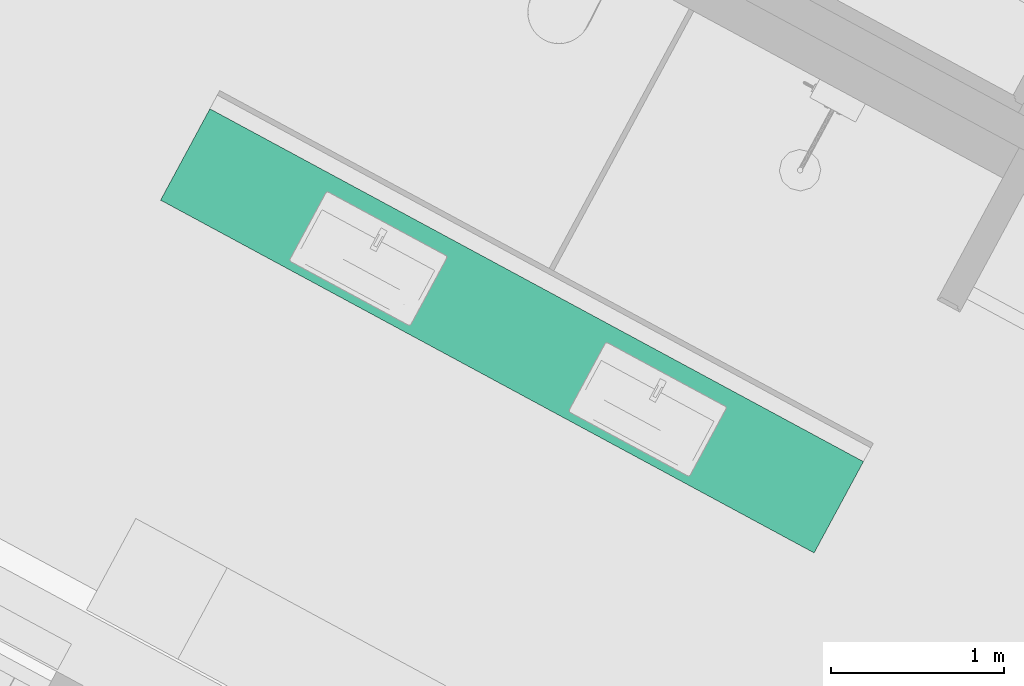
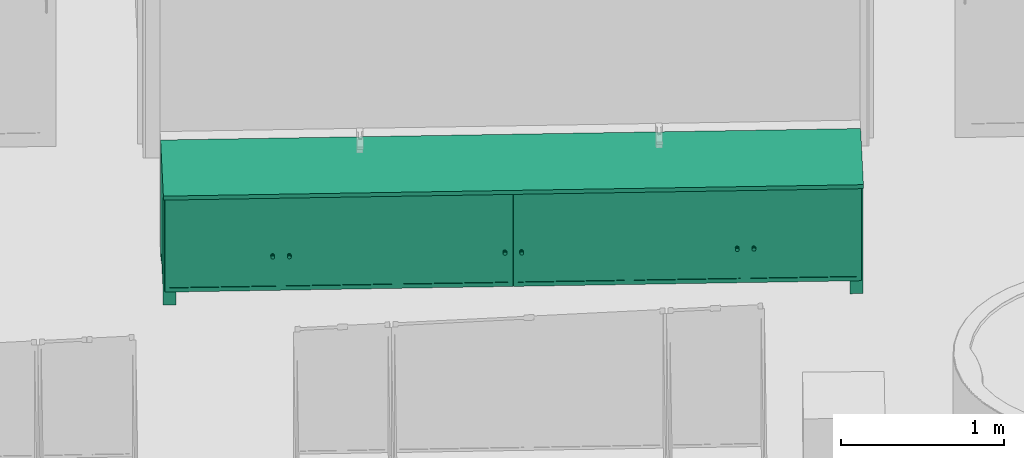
# One storey, part 20 of 48: 1 distribution element.
"""IFC2X3 building model written with IfcOpenShell, lengths in metres."""

from ifc_helpers import new_model, entity, si_unit, converted_unit, derived_unit, money_unit, direction, frame, origin_with_axes, place, context, subcontext, project, spatial, faceted_brep, type_object, element, save


model = new_model("IFC2X3")

# Units and contexts
model_context = context("Model", 3, precision=1e-05, world=origin_with_axes(), true_north=direction((0.0, 1.0)))
body_context = subcontext(model_context, "Body", "Model", "MODEL_VIEW")
ifc_project = project(units=[si_unit("LENGTHUNIT", "METRE"), si_unit("AREAUNIT", "SQUARE_METRE"), si_unit("VOLUMEUNIT", "CUBIC_METRE"), converted_unit("PLANEANGLEUNIT", "DEGREE", entity("IfcPlaneAngleMeasure", 0.0174532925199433), si_unit("PLANEANGLEUNIT", "RADIAN"), dimensions=[0, 0, 0, 0, 0, 0, 0]), money_unit("EUR"), converted_unit("TIMEUNIT", "Year", entity("IfcTimeMeasure", 31556926.0), si_unit("TIMEUNIT", "SECOND"), dimensions=[0, 0, 1, 0, 0, 0, 0]), si_unit("MASSUNIT", "GRAM", prefix="KILO"), si_unit("THERMODYNAMICTEMPERATUREUNIT", "DEGREE_CELSIUS"), si_unit("LUMINOUSINTENSITYUNIT", "LUMEN"), si_unit("ENERGYUNIT", "JOULE", prefix="MEGA"), derived_unit("THERMALCONDUCTANCEUNIT", [(si_unit("POWERUNIT", "WATT"), 1), (si_unit("LENGTHUNIT", "METRE"), -1), (si_unit("THERMODYNAMICTEMPERATUREUNIT", "KELVIN"), -1)]), derived_unit("SPECIFICHEATCAPACITYUNIT", [(si_unit("ENERGYUNIT", "JOULE"), 1), (si_unit("MASSUNIT", "GRAM", prefix="KILO"), -1), (si_unit("THERMODYNAMICTEMPERATUREUNIT", "KELVIN"), -1)]), derived_unit("MASSDENSITYUNIT", [(si_unit("MASSUNIT", "GRAM", prefix="KILO"), 1), (si_unit("VOLUMEUNIT", "CUBIC_METRE"), -1)])], contexts=[model_context])

# Site, building, storey
site_placement = place(None, frame((-3.949935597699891, 1.740105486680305, 0.0), z_axis=(0.0, 0.0, 1.0), x_axis=(0.8799804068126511, -0.475009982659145, 0.0)))
site = spatial("IfcSite", under=ifc_project, at=site_placement, Name="Gelände", CompositionType="ELEMENT")
building_placement = place(site_placement, origin_with_axes())
building = spatial("IfcBuilding", under=site, at=building_placement, Name="Gebäude", CompositionType="ELEMENT")
storey_placement = place(building_placement, frame((0.0, 0.0, 4.55), z_axis=(0.0, 0.0, 1.0), x_axis=(1.0, 0.0, 0.0)))
storey = spatial("IfcBuildingStorey", under=building, at=storey_placement, Name="Staffelgeschoss", CompositionType="ELEMENT", Elevation=4.55)

# Distribution element
distribution_element_type = type_object("IfcDistributionElementType", Name="Kleiderschrank 22")
distribution_element_placement = place(storey_placement, frame((23.66207125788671, 3.927100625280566, 0.0), z_axis=(0.0, 0.0, 1.0), x_axis=(1.0, 0.0, 0.0)))
element("IfcDistributionElement", 1, at=distribution_element_placement, inside=storey, type_object=distribution_element_type, Name="Objekt-0063", context=body_context, shape_type="Brep", body=[
    faceted_brep([(-0.02000000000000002, 0.6000002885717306, 0.12), (-0.02000000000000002, 0.6000002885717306, 0.7999999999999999), (-0.02000000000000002, 0.5800002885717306, 0.7999999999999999), (-0.02000000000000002, 0.5800002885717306, 0.12), (-4.272651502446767, 0.6000002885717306, 0.12), (-4.272651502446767, 0.6000002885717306, 0.7999999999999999), (-4.272651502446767, 0.5800002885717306, 0.7999999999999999), (-4.272651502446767, 0.5800002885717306, 0.12)], [[[0, 1, 2, 3]], [[4, 5, 1, 0]], [[1, 5, 6, 2]], [[3, 2, 6, 7]], [[0, 3, 7, 4]], [[7, 6, 5, 4]]]),
    faceted_brep([(-4.292651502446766, 0.05000000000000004, 0.1), (-4.292651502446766, 0.6000002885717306, 0.1), (-4.272651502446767, 0.6000002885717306, 0.1), (-4.272651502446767, 0.05000000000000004, 0.1), (-4.292651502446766, 0.05000000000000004, 0.82), (-4.292651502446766, 0.6000002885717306, 0.82), (-4.272651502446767, 0.6000002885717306, 0.82), (-4.272651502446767, 0.05000000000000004, 0.82)], [[[0, 1, 2, 3]], [[0, 4, 5, 1]], [[1, 5, 6, 2]], [[2, 6, 7, 3]], [[3, 7, 4, 0]], [[7, 6, 5, 4]]]),
    faceted_brep([(-0.02, 0.05000000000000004, 0.1), (-0.02, 0.6000002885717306, 0.1), (0.0, 0.6000002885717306, 0.1), (0.0, 0.05000000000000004, 0.1), (-0.02, 0.05000000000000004, 0.82), (-0.02, 0.6000002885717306, 0.82), (0.0, 0.6000002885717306, 0.82), (0.0, 0.05000000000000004, 0.82)], [[[0, 1, 2, 3]], [[0, 4, 5, 1]], [[1, 5, 6, 2]], [[2, 6, 7, 3]], [[3, 7, 4, 0]], [[7, 6, 5, 4]]]),
    faceted_brep([(-4.272651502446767, 0.05000000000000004, 0.1), (-4.272651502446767, 0.6000002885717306, 0.1), (-0.02000000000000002, 0.6000002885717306, 0.1), (-0.02000000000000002, 0.05000000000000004, 0.1), (-4.272651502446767, 0.05000000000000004, 0.12), (-4.272651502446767, 0.6000002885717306, 0.12), (-0.02000000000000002, 0.6000002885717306, 0.12), (-0.02000000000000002, 0.05000000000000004, 0.12)], [[[0, 1, 2, 3]], [[0, 4, 5, 1]], [[1, 5, 6, 2]], [[2, 6, 7, 3]], [[3, 7, 4, 0]], [[7, 6, 5, 4]]]),
    faceted_brep([(-4.272651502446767, 0.05000000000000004, 0.7999999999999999), (-4.272651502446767, 0.6000002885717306, 0.7999999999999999), (-0.02000000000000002, 0.6000002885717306, 0.7999999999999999), (-0.02000000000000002, 0.05000000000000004, 0.7999999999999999), (-4.272651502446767, 0.05000000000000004, 0.82), (-4.272651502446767, 0.6000002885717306, 0.82), (-0.02000000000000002, 0.6000002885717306, 0.82), (-0.02000000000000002, 0.05000000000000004, 0.82)], [[[0, 1, 2, 3]], [[0, 4, 5, 1]], [[1, 5, 6, 2]], [[2, 6, 7, 3]], [[3, 7, 4, 0]], [[7, 6, 5, 4]]]),
    faceted_brep([(-4.292651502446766, 0.6000002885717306, 0.82), (-4.292651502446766, 0.0, 0.82), (-4.292651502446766, 0.0, 0.85), (-4.292651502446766, 0.6000002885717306, 0.85), (0.0, 0.6000002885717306, 0.82), (0.0, 0.0, 0.82), (0.0, 0.0, 0.85), (0.0, 0.6000002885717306, 0.85)], [[[0, 1, 2, 3]], [[0, 4, 5, 1]], [[1, 5, 6, 2]], [[3, 2, 6, 7]], [[4, 0, 3, 7]], [[5, 4, 7, 6]]]),
    faceted_brep([(-0.08000000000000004, 0.5200002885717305, 0.0), (-0.08000000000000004, 0.5200002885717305, 0.1), (-0.08000000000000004, 0.6000002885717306, 0.1), (-0.08000000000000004, 0.6000002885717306, 0.0), (0.0, 0.5200002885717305, 0.0), (0.0, 0.5200002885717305, 0.1), (0.0, 0.6000002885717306, 0.1), (0.0, 0.6000002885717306, 0.0)], [[[0, 1, 2, 3]], [[4, 5, 1, 0]], [[1, 5, 6, 2]], [[3, 2, 6, 7]], [[0, 3, 7, 4]], [[7, 6, 5, 4]]]),
    faceted_brep([(-4.292651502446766, 0.5200002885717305, 0.0), (-4.292651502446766, 0.5200002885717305, 0.1), (-4.292651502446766, 0.6000002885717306, 0.1), (-4.292651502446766, 0.6000002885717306, 0.0), (-4.212651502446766, 0.5200002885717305, 0.0), (-4.212651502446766, 0.5200002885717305, 0.1), (-4.212651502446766, 0.6000002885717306, 0.1), (-4.212651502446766, 0.6000002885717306, 0.0)], [[[0, 1, 2, 3]], [[4, 5, 1, 0]], [[1, 5, 6, 2]], [[3, 2, 6, 7]], [[0, 3, 7, 4]], [[7, 6, 5, 4]]]),
    faceted_brep([(-0.08000000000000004, 0.05000000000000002, 0.0), (-0.08000000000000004, 0.05000000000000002, 0.1), (-0.08000000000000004, 0.13, 0.1), (-0.08000000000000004, 0.13, 0.0), (0.0, 0.05000000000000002, 0.0), (0.0, 0.05000000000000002, 0.1), (0.0, 0.13, 0.1), (0.0, 0.13, 0.0)], [[[0, 1, 2, 3]], [[4, 5, 1, 0]], [[1, 5, 6, 2]], [[3, 2, 6, 7]], [[0, 3, 7, 4]], [[7, 6, 5, 4]]]),
    faceted_brep([(-4.292651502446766, 0.05000000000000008, 0.0), (-4.292651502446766, 0.05000000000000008, 0.1), (-4.292651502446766, 0.1300000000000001, 0.1), (-4.292651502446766, 0.1300000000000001, 0.0), (-4.212651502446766, 0.05000000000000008, 0.0), (-4.212651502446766, 0.05000000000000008, 0.1), (-4.212651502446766, 0.1300000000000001, 0.1), (-4.212651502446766, 0.1300000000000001, 0.0)], [[[0, 1, 2, 3]], [[4, 5, 1, 0]], [[1, 5, 6, 2]], [[3, 2, 6, 7]], [[0, 3, 7, 4]], [[7, 6, 5, 4]]]),
    faceted_brep([(-0.7216085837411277, 0.05, 0.1105), (-0.7216085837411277, 0.03, 0.1105), (-0.7216085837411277, 0.03000000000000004, 0.8095), (-0.7216085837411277, 0.05000000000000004, 0.8095), (-0.6916085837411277, 0.05, 0.1405), (-0.6916085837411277, 0.03000000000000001, 0.1405), (-0.6916085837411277, 0.03000000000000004, 0.7795), (-0.6916085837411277, 0.05000000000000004, 0.7795)], [[[0, 1, 2, 3]], [[4, 5, 1, 0]], [[1, 5, 6, 2]], [[3, 2, 6, 7]], [[0, 3, 7, 4]], [[7, 6, 5, 4]]]),
    faceted_brep([(-0.04050000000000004, 0.05, 0.1405), (-0.04050000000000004, 0.03000000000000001, 0.1405), (-0.04050000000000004, 0.03000000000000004, 0.7795), (-0.04050000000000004, 0.05000000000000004, 0.7795), (-0.01050000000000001, 0.05, 0.1105), (-0.01050000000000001, 0.03, 0.1105), (-0.01050000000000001, 0.03000000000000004, 0.8095), (-0.01050000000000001, 0.05000000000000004, 0.8095)], [[[0, 1, 2, 3]], [[4, 5, 1, 0]], [[1, 5, 6, 2]], [[3, 2, 6, 7]], [[0, 3, 7, 4]], [[7, 6, 5, 4]]]),
    faceted_brep([(-0.01050000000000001, 0.05, 0.1105), (-0.01050000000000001, 0.03, 0.1105), (-0.7216085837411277, 0.03, 0.1105), (-0.7216085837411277, 0.05, 0.1105), (-0.04050000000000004, 0.05, 0.1405), (-0.04050000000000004, 0.03000000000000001, 0.1405), (-0.6916085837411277, 0.03000000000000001, 0.1405), (-0.6916085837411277, 0.05, 0.1405)], [[[0, 1, 2, 3]], [[4, 5, 1, 0]], [[1, 5, 6, 2]], [[3, 2, 6, 7]], [[0, 3, 7, 4]], [[7, 6, 5, 4]]]),
    faceted_brep([(-0.04050000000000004, 0.05000000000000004, 0.7795), (-0.04050000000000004, 0.03000000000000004, 0.7795), (-0.6916085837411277, 0.03000000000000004, 0.7795), (-0.6916085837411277, 0.05000000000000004, 0.7795), (-0.01050000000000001, 0.05000000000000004, 0.8095), (-0.01050000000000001, 0.03000000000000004, 0.8095), (-0.7216085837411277, 0.03000000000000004, 0.8095), (-0.7216085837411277, 0.05000000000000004, 0.8095)], [[[0, 1, 2, 3]], [[4, 5, 1, 0]], [[1, 5, 6, 2]], [[3, 2, 6, 7]], [[0, 3, 7, 4]], [[7, 6, 5, 4]]]),
    faceted_brep([(-0.6916085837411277, 0.04500000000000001, 0.1405), (-0.6916085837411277, 0.035, 0.1405), (-0.6916085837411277, 0.03500000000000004, 0.7795000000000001), (-0.6916085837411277, 0.04500000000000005, 0.7795000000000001), (-0.04050000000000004, 0.04500000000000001, 0.1405), (-0.04050000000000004, 0.035, 0.1405), (-0.04050000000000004, 0.03500000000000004, 0.7795000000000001), (-0.04050000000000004, 0.04500000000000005, 0.7795000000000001)], [[[0, 1, 2, 3]], [[4, 5, 1, 0]], [[1, 5, 6, 2]], [[3, 2, 6, 7]], [[0, 3, 7, 4]], [[7, 6, 5, 4]]]),
    faceted_brep([(-0.681500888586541, 0.035, 0.364), (-0.6831085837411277, 0.035, 0.37), (-0.681500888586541, 0.035, 0.376), (-0.6771085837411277, 0.035, 0.3803923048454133), (-0.6711085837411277, 0.035, 0.382), (-0.6651085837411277, 0.035, 0.3803923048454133), (-0.6607162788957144, 0.035, 0.376), (-0.6591085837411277, 0.035, 0.37), (-0.6607162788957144, 0.035, 0.364), (-0.6651085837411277, 0.035, 0.3596076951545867), (-0.6711085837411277, 0.035, 0.358), (-0.6771085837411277, 0.035, 0.3596076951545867), (-0.681500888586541, 0.01, 0.364), (-0.6831085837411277, 0.01, 0.37), (-0.681500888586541, 0.01, 0.376), (-0.6771085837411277, 0.01, 0.3803923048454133), (-0.6711085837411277, 0.01, 0.382), (-0.6651085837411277, 0.01, 0.3803923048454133), (-0.6607162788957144, 0.01, 0.376), (-0.6591085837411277, 0.01, 0.37), (-0.6607162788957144, 0.01, 0.364), (-0.6651085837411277, 0.01, 0.3596076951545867), (-0.6711085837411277, 0.01, 0.358), (-0.6771085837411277, 0.01, 0.3596076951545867)], [[[0, 1, 2, 3, 4, 5, 6, 7, 8, 9, 10, 11]], [[0, 12, 13, 1]], [[1, 13, 14, 2]], [[2, 14, 15, 3]], [[3, 15, 16, 4]], [[4, 16, 17, 5]], [[5, 17, 18, 6]], [[6, 18, 19, 7]], [[7, 19, 20, 8]], [[8, 20, 21, 9]], [[9, 21, 22, 10]], [[10, 22, 23, 11]], [[11, 23, 12, 0]], [[12, 23, 22, 21, 20, 19, 18, 17, 16, 15, 14, 13]]]),
    faceted_brep([(-1.434717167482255, 0.05, 0.1105), (-1.434717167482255, 0.03, 0.1105), (-1.434717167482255, 0.03000000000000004, 0.8095), (-1.434717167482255, 0.05000000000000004, 0.8095), (-1.404717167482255, 0.05, 0.1405), (-1.404717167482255, 0.03000000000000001, 0.1405), (-1.404717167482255, 0.03000000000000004, 0.7795), (-1.404717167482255, 0.05000000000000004, 0.7795)], [[[0, 1, 2, 3]], [[4, 5, 1, 0]], [[1, 5, 6, 2]], [[3, 2, 6, 7]], [[0, 3, 7, 4]], [[7, 6, 5, 4]]]),
    faceted_brep([(-0.7536085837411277, 0.05, 0.1405), (-0.7536085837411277, 0.03000000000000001, 0.1405), (-0.7536085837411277, 0.03000000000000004, 0.7795), (-0.7536085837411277, 0.05000000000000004, 0.7795), (-0.7236085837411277, 0.05, 0.1105), (-0.7236085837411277, 0.03, 0.1105), (-0.7236085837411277, 0.03000000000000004, 0.8095), (-0.7236085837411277, 0.05000000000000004, 0.8095)], [[[0, 1, 2, 3]], [[4, 5, 1, 0]], [[1, 5, 6, 2]], [[3, 2, 6, 7]], [[0, 3, 7, 4]], [[7, 6, 5, 4]]]),
    faceted_brep([(-0.7236085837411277, 0.05, 0.1105), (-0.7236085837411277, 0.03, 0.1105), (-1.434717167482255, 0.03, 0.1105), (-1.434717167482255, 0.05, 0.1105), (-0.7536085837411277, 0.05, 0.1405), (-0.7536085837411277, 0.03000000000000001, 0.1405), (-1.404717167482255, 0.03000000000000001, 0.1405), (-1.404717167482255, 0.05, 0.1405)], [[[0, 1, 2, 3]], [[4, 5, 1, 0]], [[1, 5, 6, 2]], [[3, 2, 6, 7]], [[0, 3, 7, 4]], [[7, 6, 5, 4]]]),
    faceted_brep([(-0.7536085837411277, 0.05000000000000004, 0.7795), (-0.7536085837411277, 0.03000000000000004, 0.7795), (-1.404717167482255, 0.03000000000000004, 0.7795), (-1.404717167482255, 0.05000000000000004, 0.7795), (-0.7236085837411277, 0.05000000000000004, 0.8095), (-0.7236085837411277, 0.03000000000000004, 0.8095), (-1.434717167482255, 0.03000000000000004, 0.8095), (-1.434717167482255, 0.05000000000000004, 0.8095)], [[[0, 1, 2, 3]], [[4, 5, 1, 0]], [[1, 5, 6, 2]], [[3, 2, 6, 7]], [[0, 3, 7, 4]], [[7, 6, 5, 4]]]),
    faceted_brep([(-1.404717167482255, 0.04500000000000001, 0.1405), (-1.404717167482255, 0.04000000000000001, 0.1405), (-1.404717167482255, 0.04000000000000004, 0.7795000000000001), (-1.404717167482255, 0.04500000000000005, 0.7795000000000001), (-0.7536085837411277, 0.04500000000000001, 0.1405), (-0.7536085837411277, 0.04000000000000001, 0.1405), (-0.7536085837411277, 0.04000000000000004, 0.7795000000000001), (-0.7536085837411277, 0.04500000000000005, 0.7795000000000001)], [[[0, 1, 2, 3]], [[4, 5, 1, 0]], [[1, 5, 6, 2]], [[3, 2, 6, 7]], [[0, 3, 7, 4]], [[7, 6, 5, 4]]]),
    faceted_brep([(-1.404717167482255, 0.04000000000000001, 0.1405), (-1.404717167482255, 0.03500000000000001, 0.1405), (-1.404717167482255, 0.03500000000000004, 0.7795000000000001), (-1.404717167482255, 0.04000000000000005, 0.7795000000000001), (-0.7536085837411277, 0.04000000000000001, 0.1405), (-0.7536085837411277, 0.03500000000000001, 0.1405), (-0.7536085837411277, 0.03500000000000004, 0.7795000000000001), (-0.7536085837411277, 0.04000000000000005, 0.7795000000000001)], [[[0, 1, 2, 3]], [[4, 5, 1, 0]], [[1, 5, 6, 2]], [[3, 2, 6, 7]], [[0, 3, 7, 4]], [[7, 6, 5, 4]]]),
    faceted_brep([(-0.7627162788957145, 0.035, 0.364), (-0.7671085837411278, 0.035, 0.3596076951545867), (-0.7731085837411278, 0.035, 0.358), (-0.7791085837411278, 0.035, 0.3596076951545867), (-0.7835008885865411, 0.035, 0.364), (-0.7851085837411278, 0.035, 0.37), (-0.7835008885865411, 0.035, 0.376), (-0.7791085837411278, 0.035, 0.3803923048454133), (-0.7731085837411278, 0.035, 0.382), (-0.7671085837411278, 0.035, 0.3803923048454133), (-0.7627162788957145, 0.035, 0.376), (-0.7611085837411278, 0.035, 0.37), (-0.7627162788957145, 0.01, 0.364), (-0.7671085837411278, 0.01, 0.3596076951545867), (-0.7731085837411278, 0.01, 0.358), (-0.7791085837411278, 0.01, 0.3596076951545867), (-0.7835008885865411, 0.01, 0.364), (-0.7851085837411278, 0.01, 0.37), (-0.7835008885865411, 0.01, 0.376), (-0.7791085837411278, 0.01, 0.3803923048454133), (-0.7731085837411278, 0.01, 0.382), (-0.7671085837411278, 0.01, 0.3803923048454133), (-0.7627162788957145, 0.01, 0.376), (-0.7611085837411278, 0.01, 0.37)], [[[0, 1, 2, 3, 4, 5, 6, 7, 8, 9, 10, 11]], [[1, 0, 12, 13]], [[2, 1, 13, 14]], [[3, 2, 14, 15]], [[4, 3, 15, 16]], [[5, 4, 16, 17]], [[6, 5, 17, 18]], [[7, 6, 18, 19]], [[8, 7, 19, 20]], [[9, 8, 20, 21]], [[10, 9, 21, 22]], [[11, 10, 22, 23]], [[0, 11, 23, 12]], [[12, 23, 22, 21, 20, 19, 18, 17, 16, 15, 14, 13]]]),
    faceted_brep([(-2.145825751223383, 0.05, 0.1105), (-2.145825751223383, 0.03, 0.1105), (-2.145825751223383, 0.03000000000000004, 0.8095), (-2.145825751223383, 0.05000000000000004, 0.8095), (-2.115825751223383, 0.05, 0.1405), (-2.115825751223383, 0.03000000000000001, 0.1405), (-2.115825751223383, 0.03000000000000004, 0.7795), (-2.115825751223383, 0.05000000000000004, 0.7795)], [[[0, 1, 2, 3]], [[4, 5, 1, 0]], [[1, 5, 6, 2]], [[3, 2, 6, 7]], [[0, 3, 7, 4]], [[7, 6, 5, 4]]]),
    faceted_brep([(-1.464717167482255, 0.05, 0.1405), (-1.464717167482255, 0.03000000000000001, 0.1405), (-1.464717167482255, 0.03000000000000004, 0.7795), (-1.464717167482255, 0.05000000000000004, 0.7795), (-1.434717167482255, 0.05, 0.1105), (-1.434717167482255, 0.03, 0.1105), (-1.434717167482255, 0.03000000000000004, 0.8095), (-1.434717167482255, 0.05000000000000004, 0.8095)], [[[0, 1, 2, 3]], [[4, 5, 1, 0]], [[1, 5, 6, 2]], [[3, 2, 6, 7]], [[0, 3, 7, 4]], [[7, 6, 5, 4]]]),
    faceted_brep([(-1.434717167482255, 0.05, 0.1105), (-1.434717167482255, 0.03, 0.1105), (-2.145825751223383, 0.03, 0.1105), (-2.145825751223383, 0.05, 0.1105), (-1.464717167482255, 0.05, 0.1405), (-1.464717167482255, 0.03000000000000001, 0.1405), (-2.115825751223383, 0.03000000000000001, 0.1405), (-2.115825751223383, 0.05, 0.1405)], [[[0, 1, 2, 3]], [[4, 5, 1, 0]], [[1, 5, 6, 2]], [[3, 2, 6, 7]], [[0, 3, 7, 4]], [[7, 6, 5, 4]]]),
    faceted_brep([(-1.464717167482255, 0.05000000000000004, 0.7795), (-1.464717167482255, 0.03000000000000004, 0.7795), (-2.115825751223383, 0.03000000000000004, 0.7795), (-2.115825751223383, 0.05000000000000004, 0.7795), (-1.434717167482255, 0.05000000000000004, 0.8095), (-1.434717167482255, 0.03000000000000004, 0.8095), (-2.145825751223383, 0.03000000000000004, 0.8095), (-2.145825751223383, 0.05000000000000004, 0.8095)], [[[0, 1, 2, 3]], [[4, 5, 1, 0]], [[1, 5, 6, 2]], [[3, 2, 6, 7]], [[0, 3, 7, 4]], [[7, 6, 5, 4]]]),
    faceted_brep([(-2.115825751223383, 0.04500000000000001, 0.1405), (-2.115825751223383, 0.035, 0.1405), (-2.115825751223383, 0.03500000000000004, 0.7795000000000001), (-2.115825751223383, 0.04500000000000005, 0.7795000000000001), (-1.464717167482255, 0.04500000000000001, 0.1405), (-1.464717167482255, 0.035, 0.1405), (-1.464717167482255, 0.03500000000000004, 0.7795000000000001), (-1.464717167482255, 0.04500000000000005, 0.7795000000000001)], [[[0, 1, 2, 3]], [[4, 5, 1, 0]], [[1, 5, 6, 2]], [[3, 2, 6, 7]], [[0, 3, 7, 4]], [[7, 6, 5, 4]]]),
    faceted_brep([(-2.105718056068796, 0.035, 0.364), (-2.107325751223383, 0.035, 0.37), (-2.105718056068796, 0.035, 0.376), (-2.101325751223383, 0.035, 0.3803923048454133), (-2.095325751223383, 0.035, 0.382), (-2.089325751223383, 0.035, 0.3803923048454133), (-2.08493344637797, 0.035, 0.376), (-2.083325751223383, 0.035, 0.37), (-2.08493344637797, 0.035, 0.364), (-2.089325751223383, 0.035, 0.3596076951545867), (-2.095325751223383, 0.035, 0.358), (-2.101325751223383, 0.035, 0.3596076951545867), (-2.105718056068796, 0.01, 0.364), (-2.107325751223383, 0.01, 0.37), (-2.105718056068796, 0.01, 0.376), (-2.101325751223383, 0.01, 0.3803923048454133), (-2.095325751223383, 0.01, 0.382), (-2.089325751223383, 0.01, 0.3803923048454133), (-2.08493344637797, 0.01, 0.376), (-2.083325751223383, 0.01, 0.37), (-2.08493344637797, 0.01, 0.364), (-2.089325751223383, 0.01, 0.3596076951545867), (-2.095325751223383, 0.01, 0.358), (-2.101325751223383, 0.01, 0.3596076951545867)], [[[0, 1, 2, 3, 4, 5, 6, 7, 8, 9, 10, 11]], [[0, 12, 13, 1]], [[1, 13, 14, 2]], [[2, 14, 15, 3]], [[3, 15, 16, 4]], [[4, 16, 17, 5]], [[5, 17, 18, 6]], [[6, 18, 19, 7]], [[7, 19, 20, 8]], [[8, 20, 21, 9]], [[9, 21, 22, 10]], [[10, 22, 23, 11]], [[11, 23, 12, 0]], [[12, 23, 22, 21, 20, 19, 18, 17, 16, 15, 14, 13]]]),
    faceted_brep([(-2.858934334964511, 0.05, 0.1105), (-2.858934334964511, 0.03, 0.1105), (-2.858934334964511, 0.03000000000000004, 0.8095), (-2.858934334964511, 0.05000000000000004, 0.8095), (-2.828934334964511, 0.05, 0.1405), (-2.828934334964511, 0.03000000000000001, 0.1405), (-2.828934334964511, 0.03000000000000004, 0.7795), (-2.828934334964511, 0.05000000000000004, 0.7795)], [[[0, 1, 2, 3]], [[4, 5, 1, 0]], [[1, 5, 6, 2]], [[3, 2, 6, 7]], [[0, 3, 7, 4]], [[7, 6, 5, 4]]]),
    faceted_brep([(-2.177825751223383, 0.05, 0.1405), (-2.177825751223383, 0.03000000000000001, 0.1405), (-2.177825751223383, 0.03000000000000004, 0.7795), (-2.177825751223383, 0.05000000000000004, 0.7795), (-2.147825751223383, 0.05, 0.1105), (-2.147825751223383, 0.03, 0.1105), (-2.147825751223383, 0.03000000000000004, 0.8095), (-2.147825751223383, 0.05000000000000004, 0.8095)], [[[0, 1, 2, 3]], [[4, 5, 1, 0]], [[1, 5, 6, 2]], [[3, 2, 6, 7]], [[0, 3, 7, 4]], [[7, 6, 5, 4]]]),
    faceted_brep([(-2.147825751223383, 0.05, 0.1105), (-2.147825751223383, 0.03, 0.1105), (-2.85893433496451, 0.03, 0.1105), (-2.85893433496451, 0.05, 0.1105), (-2.177825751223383, 0.05, 0.1405), (-2.177825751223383, 0.03000000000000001, 0.1405), (-2.828934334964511, 0.03000000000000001, 0.1405), (-2.828934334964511, 0.05, 0.1405)], [[[0, 1, 2, 3]], [[4, 5, 1, 0]], [[1, 5, 6, 2]], [[3, 2, 6, 7]], [[0, 3, 7, 4]], [[7, 6, 5, 4]]]),
    faceted_brep([(-2.177825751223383, 0.05000000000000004, 0.7795), (-2.177825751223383, 0.03000000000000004, 0.7795), (-2.828934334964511, 0.03000000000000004, 0.7795), (-2.828934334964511, 0.05000000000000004, 0.7795), (-2.147825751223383, 0.05000000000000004, 0.8095), (-2.147825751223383, 0.03000000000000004, 0.8095), (-2.85893433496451, 0.03000000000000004, 0.8095), (-2.85893433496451, 0.05000000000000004, 0.8095)], [[[0, 1, 2, 3]], [[4, 5, 1, 0]], [[1, 5, 6, 2]], [[3, 2, 6, 7]], [[0, 3, 7, 4]], [[7, 6, 5, 4]]]),
    faceted_brep([(-2.82893433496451, 0.04500000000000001, 0.1405), (-2.82893433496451, 0.04000000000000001, 0.1405), (-2.82893433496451, 0.04000000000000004, 0.7795000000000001), (-2.82893433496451, 0.04500000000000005, 0.7795000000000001), (-2.177825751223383, 0.04500000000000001, 0.1405), (-2.177825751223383, 0.04000000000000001, 0.1405), (-2.177825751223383, 0.04000000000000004, 0.7795000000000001), (-2.177825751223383, 0.04500000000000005, 0.7795000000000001)], [[[0, 1, 2, 3]], [[4, 5, 1, 0]], [[1, 5, 6, 2]], [[3, 2, 6, 7]], [[0, 3, 7, 4]], [[7, 6, 5, 4]]]),
    faceted_brep([(-2.82893433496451, 0.04000000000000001, 0.1405), (-2.82893433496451, 0.03500000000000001, 0.1405), (-2.82893433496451, 0.03500000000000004, 0.7795000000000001), (-2.82893433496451, 0.04000000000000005, 0.7795000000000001), (-2.177825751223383, 0.04000000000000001, 0.1405), (-2.177825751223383, 0.03500000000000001, 0.1405), (-2.177825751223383, 0.03500000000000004, 0.7795000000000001), (-2.177825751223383, 0.04000000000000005, 0.7795000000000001)], [[[0, 1, 2, 3]], [[4, 5, 1, 0]], [[1, 5, 6, 2]], [[3, 2, 6, 7]], [[0, 3, 7, 4]], [[7, 6, 5, 4]]]),
    faceted_brep([(-2.18693344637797, 0.035, 0.364), (-2.191325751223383, 0.035, 0.3596076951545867), (-2.197325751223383, 0.035, 0.358), (-2.203325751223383, 0.035, 0.3596076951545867), (-2.207718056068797, 0.035, 0.364), (-2.209325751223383, 0.035, 0.37), (-2.207718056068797, 0.035, 0.376), (-2.203325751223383, 0.035, 0.3803923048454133), (-2.197325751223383, 0.035, 0.382), (-2.191325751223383, 0.035, 0.3803923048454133), (-2.18693344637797, 0.035, 0.376), (-2.185325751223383, 0.035, 0.37), (-2.18693344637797, 0.01, 0.364), (-2.191325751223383, 0.01, 0.3596076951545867), (-2.197325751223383, 0.01, 0.358), (-2.203325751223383, 0.01, 0.3596076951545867), (-2.207718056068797, 0.01, 0.364), (-2.209325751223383, 0.01, 0.37), (-2.207718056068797, 0.01, 0.376), (-2.203325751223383, 0.01, 0.3803923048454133), (-2.197325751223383, 0.01, 0.382), (-2.191325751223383, 0.01, 0.3803923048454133), (-2.18693344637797, 0.01, 0.376), (-2.185325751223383, 0.01, 0.37)], [[[0, 1, 2, 3, 4, 5, 6, 7, 8, 9, 10, 11]], [[1, 0, 12, 13]], [[2, 1, 13, 14]], [[3, 2, 14, 15]], [[4, 3, 15, 16]], [[5, 4, 16, 17]], [[6, 5, 17, 18]], [[7, 6, 18, 19]], [[8, 7, 19, 20]], [[9, 8, 20, 21]], [[10, 9, 21, 22]], [[11, 10, 22, 23]], [[0, 11, 23, 12]], [[12, 23, 22, 21, 20, 19, 18, 17, 16, 15, 14, 13]]]),
    faceted_brep([(-3.570042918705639, 0.05, 0.1105), (-3.570042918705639, 0.03, 0.1105), (-3.570042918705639, 0.03000000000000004, 0.8095), (-3.570042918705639, 0.05000000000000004, 0.8095), (-3.540042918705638, 0.05, 0.1405), (-3.540042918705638, 0.03000000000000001, 0.1405), (-3.540042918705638, 0.03000000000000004, 0.7795), (-3.540042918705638, 0.05000000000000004, 0.7795)], [[[0, 1, 2, 3]], [[4, 5, 1, 0]], [[1, 5, 6, 2]], [[3, 2, 6, 7]], [[0, 3, 7, 4]], [[7, 6, 5, 4]]]),
    faceted_brep([(-2.88893433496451, 0.05, 0.1405), (-2.88893433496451, 0.03000000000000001, 0.1405), (-2.88893433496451, 0.03000000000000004, 0.7795), (-2.88893433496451, 0.05000000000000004, 0.7795), (-2.85893433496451, 0.05, 0.1105), (-2.85893433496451, 0.03, 0.1105), (-2.85893433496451, 0.03000000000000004, 0.8095), (-2.85893433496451, 0.05000000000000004, 0.8095)], [[[0, 1, 2, 3]], [[4, 5, 1, 0]], [[1, 5, 6, 2]], [[3, 2, 6, 7]], [[0, 3, 7, 4]], [[7, 6, 5, 4]]]),
    faceted_brep([(-2.85893433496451, 0.05, 0.1105), (-2.85893433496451, 0.03, 0.1105), (-3.570042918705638, 0.03, 0.1105), (-3.570042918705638, 0.05, 0.1105), (-2.88893433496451, 0.05, 0.1405), (-2.88893433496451, 0.03000000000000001, 0.1405), (-3.540042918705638, 0.03000000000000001, 0.1405), (-3.540042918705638, 0.05, 0.1405)], [[[0, 1, 2, 3]], [[4, 5, 1, 0]], [[1, 5, 6, 2]], [[3, 2, 6, 7]], [[0, 3, 7, 4]], [[7, 6, 5, 4]]]),
    faceted_brep([(-2.88893433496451, 0.05000000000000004, 0.7795), (-2.88893433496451, 0.03000000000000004, 0.7795), (-3.540042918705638, 0.03000000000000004, 0.7795), (-3.540042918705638, 0.05000000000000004, 0.7795), (-2.85893433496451, 0.05000000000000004, 0.8095), (-2.85893433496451, 0.03000000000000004, 0.8095), (-3.570042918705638, 0.03000000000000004, 0.8095), (-3.570042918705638, 0.05000000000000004, 0.8095)], [[[0, 1, 2, 3]], [[4, 5, 1, 0]], [[1, 5, 6, 2]], [[3, 2, 6, 7]], [[0, 3, 7, 4]], [[7, 6, 5, 4]]]),
    faceted_brep([(-3.540042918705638, 0.04500000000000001, 0.1405), (-3.540042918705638, 0.035, 0.1405), (-3.540042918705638, 0.03500000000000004, 0.7795000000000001), (-3.540042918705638, 0.04500000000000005, 0.7795000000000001), (-2.88893433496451, 0.04500000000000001, 0.1405), (-2.88893433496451, 0.035, 0.1405), (-2.88893433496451, 0.03500000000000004, 0.7795000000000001), (-2.88893433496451, 0.04500000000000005, 0.7795000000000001)], [[[0, 1, 2, 3]], [[4, 5, 1, 0]], [[1, 5, 6, 2]], [[3, 2, 6, 7]], [[0, 3, 7, 4]], [[7, 6, 5, 4]]]),
    faceted_brep([(-3.529935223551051, 0.035, 0.364), (-3.531542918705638, 0.035, 0.37), (-3.529935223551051, 0.035, 0.376), (-3.525542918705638, 0.035, 0.3803923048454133), (-3.519542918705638, 0.035, 0.382), (-3.513542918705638, 0.035, 0.3803923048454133), (-3.509150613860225, 0.035, 0.376), (-3.507542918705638, 0.035, 0.37), (-3.509150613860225, 0.035, 0.364), (-3.513542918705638, 0.035, 0.3596076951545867), (-3.519542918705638, 0.035, 0.358), (-3.525542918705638, 0.035, 0.3596076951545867), (-3.529935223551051, 0.01, 0.364), (-3.531542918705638, 0.01, 0.37), (-3.529935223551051, 0.01, 0.376), (-3.525542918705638, 0.01, 0.3803923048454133), (-3.519542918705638, 0.01, 0.382), (-3.513542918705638, 0.01, 0.3803923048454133), (-3.509150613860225, 0.01, 0.376), (-3.507542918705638, 0.01, 0.37), (-3.509150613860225, 0.01, 0.364), (-3.513542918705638, 0.01, 0.3596076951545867), (-3.519542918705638, 0.01, 0.358), (-3.525542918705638, 0.01, 0.3596076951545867)], [[[0, 1, 2, 3, 4, 5, 6, 7, 8, 9, 10, 11]], [[0, 12, 13, 1]], [[1, 13, 14, 2]], [[2, 14, 15, 3]], [[3, 15, 16, 4]], [[4, 16, 17, 5]], [[5, 17, 18, 6]], [[6, 18, 19, 7]], [[7, 19, 20, 8]], [[8, 20, 21, 9]], [[9, 21, 22, 10]], [[10, 22, 23, 11]], [[11, 23, 12, 0]], [[12, 23, 22, 21, 20, 19, 18, 17, 16, 15, 14, 13]]]),
    faceted_brep([(-4.283151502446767, 0.05, 0.1105), (-4.283151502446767, 0.03, 0.1105), (-4.283151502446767, 0.03000000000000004, 0.8095), (-4.283151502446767, 0.05000000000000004, 0.8095), (-4.253151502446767, 0.05, 0.1405), (-4.253151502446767, 0.03000000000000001, 0.1405), (-4.253151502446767, 0.03000000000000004, 0.7795), (-4.253151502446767, 0.05000000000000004, 0.7795)], [[[0, 1, 2, 3]], [[4, 5, 1, 0]], [[1, 5, 6, 2]], [[3, 2, 6, 7]], [[0, 3, 7, 4]], [[7, 6, 5, 4]]]),
    faceted_brep([(-3.602042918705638, 0.05, 0.1405), (-3.602042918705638, 0.03000000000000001, 0.1405), (-3.602042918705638, 0.03000000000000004, 0.7795), (-3.602042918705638, 0.05000000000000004, 0.7795), (-3.572042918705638, 0.05, 0.1105), (-3.572042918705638, 0.03, 0.1105), (-3.572042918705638, 0.03000000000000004, 0.8095), (-3.572042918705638, 0.05000000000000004, 0.8095)], [[[0, 1, 2, 3]], [[4, 5, 1, 0]], [[1, 5, 6, 2]], [[3, 2, 6, 7]], [[0, 3, 7, 4]], [[7, 6, 5, 4]]]),
    faceted_brep([(-3.572042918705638, 0.05, 0.1105), (-3.572042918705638, 0.03, 0.1105), (-4.283151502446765, 0.03, 0.1105), (-4.283151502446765, 0.05, 0.1105), (-3.602042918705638, 0.05, 0.1405), (-3.602042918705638, 0.03000000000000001, 0.1405), (-4.253151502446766, 0.03000000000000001, 0.1405), (-4.253151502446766, 0.05, 0.1405)], [[[0, 1, 2, 3]], [[4, 5, 1, 0]], [[1, 5, 6, 2]], [[3, 2, 6, 7]], [[0, 3, 7, 4]], [[7, 6, 5, 4]]]),
    faceted_brep([(-3.602042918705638, 0.05000000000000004, 0.7795), (-3.602042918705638, 0.03000000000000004, 0.7795), (-4.253151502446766, 0.03000000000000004, 0.7795), (-4.253151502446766, 0.05000000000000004, 0.7795), (-3.572042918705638, 0.05000000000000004, 0.8095), (-3.572042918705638, 0.03000000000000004, 0.8095), (-4.283151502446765, 0.03000000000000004, 0.8095), (-4.283151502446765, 0.05000000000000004, 0.8095)], [[[0, 1, 2, 3]], [[4, 5, 1, 0]], [[1, 5, 6, 2]], [[3, 2, 6, 7]], [[0, 3, 7, 4]], [[7, 6, 5, 4]]]),
    faceted_brep([(-4.253151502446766, 0.04500000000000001, 0.1405), (-4.253151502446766, 0.04000000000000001, 0.1405), (-4.253151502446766, 0.04000000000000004, 0.7795000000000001), (-4.253151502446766, 0.04500000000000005, 0.7795000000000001), (-3.602042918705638, 0.04500000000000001, 0.1405), (-3.602042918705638, 0.04000000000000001, 0.1405), (-3.602042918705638, 0.04000000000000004, 0.7795000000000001), (-3.602042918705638, 0.04500000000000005, 0.7795000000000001)], [[[0, 1, 2, 3]], [[4, 5, 1, 0]], [[1, 5, 6, 2]], [[3, 2, 6, 7]], [[0, 3, 7, 4]], [[7, 6, 5, 4]]]),
    faceted_brep([(-4.253151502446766, 0.04000000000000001, 0.1405), (-4.253151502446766, 0.03500000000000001, 0.1405), (-4.253151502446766, 0.03500000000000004, 0.7795000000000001), (-4.253151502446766, 0.04000000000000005, 0.7795000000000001), (-3.602042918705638, 0.04000000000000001, 0.1405), (-3.602042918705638, 0.03500000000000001, 0.1405), (-3.602042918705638, 0.03500000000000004, 0.7795000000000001), (-3.602042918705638, 0.04000000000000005, 0.7795000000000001)], [[[0, 1, 2, 3]], [[4, 5, 1, 0]], [[1, 5, 6, 2]], [[3, 2, 6, 7]], [[0, 3, 7, 4]], [[7, 6, 5, 4]]]),
    faceted_brep([(-3.611150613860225, 0.035, 0.364), (-3.615542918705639, 0.035, 0.3596076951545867), (-3.621542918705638, 0.035, 0.358), (-3.627542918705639, 0.035, 0.3596076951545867), (-3.631935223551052, 0.035, 0.364), (-3.633542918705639, 0.035, 0.37), (-3.631935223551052, 0.035, 0.376), (-3.627542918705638, 0.035, 0.3803923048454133), (-3.621542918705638, 0.035, 0.382), (-3.615542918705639, 0.035, 0.3803923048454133), (-3.611150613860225, 0.035, 0.376), (-3.609542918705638, 0.035, 0.37), (-3.611150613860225, 0.01, 0.364), (-3.615542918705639, 0.01, 0.3596076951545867), (-3.621542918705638, 0.01, 0.358), (-3.627542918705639, 0.01, 0.3596076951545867), (-3.631935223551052, 0.01, 0.364), (-3.633542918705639, 0.01, 0.37), (-3.631935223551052, 0.01, 0.376), (-3.627542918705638, 0.01, 0.3803923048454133), (-3.621542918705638, 0.01, 0.382), (-3.615542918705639, 0.01, 0.3803923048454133), (-3.611150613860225, 0.01, 0.376), (-3.609542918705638, 0.01, 0.37)], [[[0, 1, 2, 3, 4, 5, 6, 7, 8, 9, 10, 11]], [[1, 0, 12, 13]], [[2, 1, 13, 14]], [[3, 2, 14, 15]], [[4, 3, 15, 16]], [[5, 4, 16, 17]], [[6, 5, 17, 18]], [[7, 6, 18, 19]], [[8, 7, 19, 20]], [[9, 8, 20, 21]], [[10, 9, 21, 22]], [[11, 10, 22, 23]], [[0, 11, 23, 12]], [[12, 23, 22, 21, 20, 19, 18, 17, 16, 15, 14, 13]]]),
])

save(model, "model.ifc")
